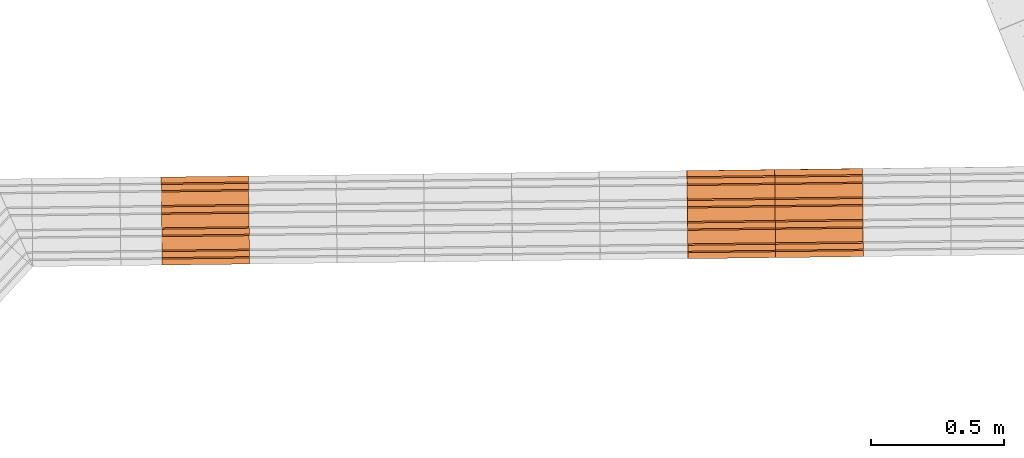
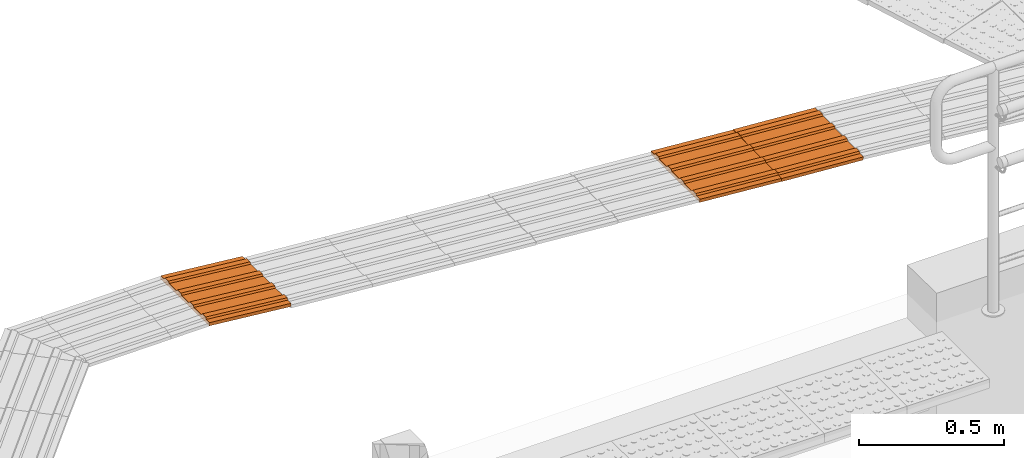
# One storey, part 224 of 237: 3 proxies.
"""IFC2X3 building model written with IfcOpenShell, lengths in millimetres."""

from ifc_helpers import new_model, entity, si_unit, converted_unit, derived_unit, money_unit, direction, frame, origin_with_axes, place, context, subcontext, project, spatial, open_shell, surface_model, type_object, element, save


model = new_model("IFC2X3")

# Units and contexts
model_context = context("Model", 3, precision=0.01, world=origin_with_axes(), true_north=direction((0.0, 1.0)))
body_context = subcontext(model_context, "Body", "Model", "MODEL_VIEW")
ifc_project = project(units=[si_unit("LENGTHUNIT", "METRE", prefix="MILLI"), si_unit("AREAUNIT", "SQUARE_METRE"), si_unit("VOLUMEUNIT", "CUBIC_METRE"), converted_unit("PLANEANGLEUNIT", "DEGREE", entity("IfcPlaneAngleMeasure", 0.0174532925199), si_unit("PLANEANGLEUNIT", "RADIAN"), dimensions=[0, 0, 0, 0, 0, 0, 0]), money_unit("USD"), converted_unit("TIMEUNIT", "Year", entity("IfcTimeMeasure", 31556926.0), si_unit("TIMEUNIT", "SECOND"), dimensions=[0, 0, 1, 0, 0, 0, 0]), si_unit("MASSUNIT", "GRAM", prefix="KILO"), si_unit("THERMODYNAMICTEMPERATUREUNIT", "DEGREE_CELSIUS"), si_unit("LUMINOUSINTENSITYUNIT", "LUMEN"), si_unit("ENERGYUNIT", "JOULE", prefix="MEGA"), derived_unit("THERMALCONDUCTANCEUNIT", [(si_unit("POWERUNIT", "WATT"), 1), (si_unit("LENGTHUNIT", "METRE"), -1), (si_unit("THERMODYNAMICTEMPERATUREUNIT", "KELVIN"), -1)]), derived_unit("SPECIFICHEATCAPACITYUNIT", [(si_unit("ENERGYUNIT", "JOULE"), 1), (si_unit("MASSUNIT", "GRAM", prefix="KILO"), -1), (si_unit("THERMODYNAMICTEMPERATUREUNIT", "KELVIN"), -1)]), derived_unit("MASSDENSITYUNIT", [(si_unit("MASSUNIT", "GRAM", prefix="KILO"), 1), (si_unit("VOLUMEUNIT", "CUBIC_METRE"), -1)])], contexts=[model_context])

# Site, building, storey
site_placement = place(None, origin_with_axes())
site = spatial("IfcSite", under=ifc_project, at=site_placement, Name="Local", CompositionType="ELEMENT")
building_placement = place(site_placement, origin_with_axes())
building = spatial("IfcBuilding", under=site, at=building_placement, Name="Construção", CompositionType="ELEMENT")
storey_placement = place(building_placement, origin_with_axes())
storey = spatial("IfcBuildingStorey", under=building, at=storey_placement, Name="Pavimento Térreo", CompositionType="ELEMENT", Elevation=0.0)

# Proxies
building_element_proxy_type = type_object("IfcBuildingElementProxyType", Name="Piso Direcional 27", PredefinedType="NOTDEFINED")
proxy_1_placement = place(storey_placement, frame((51185.2731253, 36669.5583104, -1571.58155223), z_axis=(0.0, 0.0, 1.0), x_axis=(-0.999926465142, -0.012127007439, 0.0)))
element("IfcBuildingElementProxy", 1, at=proxy_1_placement, inside=storey, type_object=building_element_proxy_type, Name="Objeto-0055", context=body_context, shape_type="SurfaceModel", body=[
    surface_model("IfcShellBasedSurfaceModel", [(-0.422938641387, -47.1807202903, 4.83421079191), (328.321311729, -47.1807202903, 33.5956058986), (327.74886966, -41.4720024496, 40.1386486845), (-0.995380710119, -41.4720024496, 11.3772535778)], [open_shell([[[0, 1, 2, 3]]])]),
    surface_model("IfcShellBasedSurfaceModel", [(329.321564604, -153.668419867, 22.1626632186), (329.823520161, 176.281319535, 16.4252849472), (328.661620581, 176.514018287, 29.705857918), (328.627589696, 154.144544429, 30.0948327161), (328.038132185, 148.668525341, 36.832362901), (328.004101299, 126.299051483, 37.2213376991), (328.576543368, 120.590333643, 30.6782949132), (328.499973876, 70.2590174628, 31.5534882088), (327.910516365, 64.7829983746, 38.2910183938), (327.87648548, 42.4135245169, 38.6799931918), (328.448927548, 36.7048066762, 32.1369504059), (328.372358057, -13.6265095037, 33.0121437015), (327.782900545, -19.1025285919, 39.7496738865), (327.74886966, -41.4720024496, 40.1386486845), (328.321311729, -47.1807202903, 33.5956058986), (328.244742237, -97.5120364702, 34.4707991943), (327.655284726, -102.988055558, 41.2083293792), (327.621253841, -125.357529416, 41.5973041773), (328.193695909, -131.066247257, 35.0542613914), (328.159665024, -153.435721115, 35.4432361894)], [open_shell([[[0, 1, 2, 3, 4, 5, 6, 7, 8, 9, 10, 11, 12, 13, 14, 15, 16, 17, 18, 19]]])]),
    surface_model("IfcShellBasedSurfaceModel", [(-0.961349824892, -19.1025285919, 10.9882787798), (327.782900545, -19.1025285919, 39.7496738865), (328.372358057, -13.6265095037, 33.0121437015), (-0.371892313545, -13.6265095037, 4.25074859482)], [open_shell([[[0, 1, 2, 3]]])]),
    surface_model("IfcShellBasedSurfaceModel", [(-1.08896564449, -102.988055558, 12.4469342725), (327.655284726, -102.988055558, 41.2083293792), (328.244742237, -97.5120364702, 34.4707991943), (-0.499508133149, -97.5120364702, 5.70940408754)], [open_shell([[[0, 1, 2, 3]]])]),
    surface_model("IfcShellBasedSurfaceModel", [(-0.833734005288, 64.7829983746, 9.52962328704), (327.910516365, 64.7829983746, 38.2910183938), (328.499973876, 70.2590174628, 31.5534882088), (-0.244276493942, 70.2590174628, 2.79209310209)], [open_shell([[[0, 1, 2, 3]]])]),
    surface_model("IfcShellBasedSurfaceModel", [(-0.295322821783, 36.7048066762, 3.37555529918), (328.448927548, 36.7048066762, 32.1369504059), (327.87648548, 42.4135245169, 38.6799931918), (-0.867764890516, 42.4135245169, 9.9185980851)], [open_shell([[[0, 1, 2, 3]]])]),
    surface_model("IfcShellBasedSurfaceModel", [(-0.55055446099, -131.066247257, 6.29286628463), (328.193695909, -131.066247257, 35.0542613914), (327.621253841, -125.357529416, 41.5973041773), (-1.12299652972, -125.357529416, 12.8359090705)], [open_shell([[[0, 1, 2, 3]]])]),
    surface_model("IfcShellBasedSurfaceModel", [(-0.0826297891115, 176.514018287, 0.94446281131), (-0.116660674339, 154.144544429, 1.33343760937), (328.627589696, 154.144544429, 30.0948327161), (328.661620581, 176.514018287, 29.705857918)], [open_shell([[[0, 1, 2, 3]]])]),
    surface_model("IfcShellBasedSurfaceModel", [(-0.16770700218, 120.590333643, 1.91689980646), (328.576543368, 120.590333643, 30.6782949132), (328.004101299, 126.299051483, 37.2213376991), (-0.740149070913, 126.299051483, 8.45994259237)], [open_shell([[[0, 1, 2, 3]]])]),
    surface_model("IfcShellBasedSurfaceModel", [(-0.706118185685, 148.668525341, 8.07096779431), (328.038132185, 148.668525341, 36.832362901), (328.627589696, 154.144544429, 30.0948327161), (-0.116660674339, 154.144544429, 1.33343760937)], [open_shell([[[0, 1, 2, 3]]])]),
    surface_model("IfcShellBasedSurfaceModel", [(-0.295322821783, 36.7048066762, 3.37555529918), (-0.371892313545, -13.6265095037, 4.25074859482), (328.372358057, -13.6265095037, 33.0121437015), (328.448927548, 36.7048066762, 32.1369504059)], [open_shell([[[0, 1, 2, 3]]])]),
    surface_model("IfcShellBasedSurfaceModel", [(-0.16770700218, 120.590333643, 1.91689980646), (-0.244276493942, 70.2590174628, 2.79209310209), (328.499973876, 70.2590174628, 31.5534882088), (328.576543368, 120.590333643, 30.6782949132)], [open_shell([[[0, 1, 2, 3]]])]),
    surface_model("IfcShellBasedSurfaceModel", [(-0.706118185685, 148.668525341, 8.07096779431), (-0.740149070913, 126.299051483, 8.45994259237), (328.004101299, 126.299051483, 37.2213376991), (328.038132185, 148.668525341, 36.832362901)], [open_shell([[[0, 1, 2, 3]]])]),
    surface_model("IfcShellBasedSurfaceModel", [(-0.16770700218, 120.590333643, 1.91689980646), (-0.740149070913, 126.299051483, 8.45994259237), (-0.706118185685, 148.668525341, 8.07096779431), (-0.116660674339, 154.144544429, 1.33343760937), (-0.0826297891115, 176.514018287, 0.94446281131), (1.07926979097, 176.281319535, -12.3361101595), (0.577314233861, -153.668419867, -6.59873188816), (-0.584585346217, -153.435721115, 6.68184108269), (-0.55055446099, -131.066247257, 6.29286628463), (-1.12299652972, -125.357529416, 12.8359090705), (-1.08896564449, -102.988055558, 12.4469342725), (-0.499508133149, -97.5120364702, 5.70940408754), (-0.422938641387, -47.1807202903, 4.83421079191), (-0.995380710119, -41.4720024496, 11.3772535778), (-0.961349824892, -19.1025285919, 10.9882787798), (-0.371892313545, -13.6265095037, 4.25074859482), (-0.295322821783, 36.7048066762, 3.37555529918), (-0.867764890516, 42.4135245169, 9.9185980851), (-0.833734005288, 64.7829983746, 9.52962328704), (-0.244276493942, 70.2590174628, 2.79209310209)], [open_shell([[[0, 1, 2, 3, 4, 5, 6, 7, 8, 9, 10, 11, 12, 13, 14, 15, 16, 17, 18, 19]]])]),
    surface_model("IfcShellBasedSurfaceModel", [(327.74886966, -41.4720024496, 40.1386486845), (327.782900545, -19.1025285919, 39.7496738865), (-0.961349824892, -19.1025285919, 10.9882787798), (-0.995380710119, -41.4720024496, 11.3772535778)], [open_shell([[[0, 1, 2, 3]]])]),
    surface_model("IfcShellBasedSurfaceModel", [(-0.422938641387, -47.1807202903, 4.83421079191), (-0.499508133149, -97.5120364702, 5.70940408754), (328.244742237, -97.5120364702, 34.4707991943), (328.321311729, -47.1807202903, 33.5956058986)], [open_shell([[[0, 1, 2, 3]]])]),
    surface_model("IfcShellBasedSurfaceModel", [(327.87648548, 42.4135245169, 38.6799931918), (327.910516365, 64.7829983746, 38.2910183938), (-0.833734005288, 64.7829983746, 9.52962328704), (-0.867764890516, 42.4135245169, 9.9185980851)], [open_shell([[[0, 1, 2, 3]]])]),
    surface_model("IfcShellBasedSurfaceModel", [(327.621253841, -125.357529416, 41.5973041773), (327.655284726, -102.988055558, 41.2083293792), (-1.08896564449, -102.988055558, 12.4469342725), (-1.12299652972, -125.357529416, 12.8359090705)], [open_shell([[[0, 1, 2, 3]]])]),
    surface_model("IfcShellBasedSurfaceModel", [(329.823520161, 176.281319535, 16.4252849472), (1.07926979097, 176.281319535, -12.3361101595), (-0.0826297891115, 176.514018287, 0.94446281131), (328.661620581, 176.514018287, 29.705857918)], [open_shell([[[0, 1, 2, 3]]])]),
    surface_model("IfcShellBasedSurfaceModel", [(329.321564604, -153.668419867, 22.1626632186), (0.577314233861, -153.668419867, -6.59873188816), (1.07926979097, 176.281319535, -12.3361101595), (329.823520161, 176.281319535, 16.4252849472)], [open_shell([[[0, 1, 2, 3]]])]),
    surface_model("IfcShellBasedSurfaceModel", [(328.159665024, -153.435721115, 35.4432361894), (328.193695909, -131.066247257, 35.0542613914), (-0.55055446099, -131.066247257, 6.29286628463), (-0.584585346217, -153.435721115, 6.68184108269)], [open_shell([[[0, 1, 2, 3]]])]),
    surface_model("IfcShellBasedSurfaceModel", [(0.577314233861, -153.668419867, -6.59873188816), (329.321564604, -153.668419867, 22.1626632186), (328.159665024, -153.435721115, 35.4432361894), (-0.584585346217, -153.435721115, 6.68184108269)], [open_shell([[[0, 1, 2, 3]]])]),
])
proxy_2_placement = place(storey_placement, frame((51514.2917401, 36673.5491512, -1597.16920049), z_axis=(0.0, 0.0, 1.0), x_axis=(-0.999926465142, -0.012127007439, 0.0)))
element("IfcBuildingElementProxy", 2, at=proxy_2_placement, inside=storey, type_object=building_element_proxy_type, Name="Objeto-0055", context=body_context, shape_type="SurfaceModel", body=[
    surface_model("IfcShellBasedSurfaceModel", [(-0.413025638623, -47.1365767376, 5.24798832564), (328.569694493, -47.1365767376, 31.1394899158), (328.058300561, -41.3707600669, 37.6373659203), (-0.924419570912, -41.3707600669, 11.7458643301)], [open_shell([[[0, 1, 2, 3]]])]),
    surface_model("IfcShellBasedSurfaceModel", [(329.397195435, -153.720372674, 20.6250935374), (330.074955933, 176.166544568, 12.0133298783), (329.029193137, 176.515570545, 25.3010060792), (328.983243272, 154.150355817, 25.8848544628), (328.448874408, 148.733565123, 32.6746546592), (328.402924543, 126.368350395, 33.2585030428), (328.914318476, 120.602533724, 26.7606270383), (328.810931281, 70.2808005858, 28.0742859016), (328.276562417, 64.8640098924, 34.8640860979), (328.230612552, 42.4987951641, 35.4479344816), (328.742006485, 36.7329784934, 28.9500584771), (328.63861929, -13.5887546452, 30.2637173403), (328.104250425, -19.0055453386, 37.0535175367), (328.058300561, -41.3707600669, 37.6373659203), (328.569694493, -47.1365767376, 31.1394899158), (328.466307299, -97.4583098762, 32.4531487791), (327.931938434, -102.87510057, 39.2429489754), (327.88598857, -125.240315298, 39.8267973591), (328.397382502, -131.006131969, 33.3289213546), (328.351432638, -153.371346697, 33.9127697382)], [open_shell([[[0, 1, 2, 3, 4, 5, 6, 7, 8, 9, 10, 11, 12, 13, 14, 15, 16, 17, 18, 19]]])]),
    surface_model("IfcShellBasedSurfaceModel", [(-0.87846970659, -19.0055453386, 11.1620159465), (328.104250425, -19.0055453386, 37.0535175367), (328.63861929, -13.5887546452, 30.2637173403), (-0.344100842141, -13.5887546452, 4.37221575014)], [open_shell([[[0, 1, 2, 3]]])]),
    surface_model("IfcShellBasedSurfaceModel", [(-1.0507816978, -102.87510057, 13.3514473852), (327.931938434, -102.87510057, 39.2429489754), (328.466307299, -97.4583098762, 32.4531487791), (-0.516412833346, -97.4583098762, 6.56164718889)], [open_shell([[[0, 1, 2, 3]]])]),
    surface_model("IfcShellBasedSurfaceModel", [(-0.706157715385, 64.8640098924, 8.97258450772), (328.276562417, 64.8640098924, 34.8640860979), (328.810931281, 70.2808005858, 28.0742859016), (-0.171788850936, 70.2808005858, 2.18278431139)], [open_shell([[[0, 1, 2, 3]]])]),
    surface_model("IfcShellBasedSurfaceModel", [(-0.240713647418, 36.7329784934, 3.05855688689), (328.742006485, 36.7329784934, 28.9500584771), (328.230612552, 42.4987951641, 35.4479344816), (-0.752107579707, 42.4987951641, 9.55643289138)], [open_shell([[[0, 1, 2, 3]]])]),
    surface_model("IfcShellBasedSurfaceModel", [(-0.585337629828, -131.006131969, 7.43741976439), (328.397382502, -131.006131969, 33.3289213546), (327.88598857, -125.240315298, 39.8267973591), (-1.09673156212, -125.240315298, 13.9352957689)], [open_shell([[[0, 1, 2, 3]]])]),
    surface_model("IfcShellBasedSurfaceModel", [(0.0464730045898, 176.515570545, -0.590495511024), (0.000523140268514, 154.150355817, -0.00664712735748), (328.983243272, 154.150355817, 25.8848544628), (329.029193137, 176.515570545, 25.3010060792)], [open_shell([[[0, 1, 2, 3]]])]),
    surface_model("IfcShellBasedSurfaceModel", [(-0.0684016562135, 120.602533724, 0.869125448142), (328.914318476, 120.602533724, 26.7606270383), (328.402924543, 126.368350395, 33.2585030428), (-0.579795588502, 126.368350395, 7.36700145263)], [open_shell([[[0, 1, 2, 3]]])]),
    surface_model("IfcShellBasedSurfaceModel", [(-0.53384572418, 148.733565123, 6.78315306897), (328.448874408, 148.733565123, 32.6746546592), (328.983243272, 154.150355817, 25.8848544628), (0.000523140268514, 154.150355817, -0.00664712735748)], [open_shell([[[0, 1, 2, 3]]])]),
    surface_model("IfcShellBasedSurfaceModel", [(-0.240713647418, 36.7329784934, 3.05855688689), (-0.344100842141, -13.5887546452, 4.37221575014), (328.63861929, -13.5887546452, 30.2637173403), (328.742006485, 36.7329784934, 28.9500584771)], [open_shell([[[0, 1, 2, 3]]])]),
    surface_model("IfcShellBasedSurfaceModel", [(-0.0684016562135, 120.602533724, 0.869125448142), (-0.171788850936, 70.2808005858, 2.18278431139), (328.810931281, 70.2808005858, 28.0742859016), (328.914318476, 120.602533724, 26.7606270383)], [open_shell([[[0, 1, 2, 3]]])]),
    surface_model("IfcShellBasedSurfaceModel", [(-0.53384572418, 148.733565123, 6.78315306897), (-0.579795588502, 126.368350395, 7.36700145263), (328.402924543, 126.368350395, 33.2585030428), (328.448874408, 148.733565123, 32.6746546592)], [open_shell([[[0, 1, 2, 3]]])]),
    surface_model("IfcShellBasedSurfaceModel", [(-0.0684016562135, 120.602533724, 0.869125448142), (-0.579795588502, 126.368350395, 7.36700145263), (-0.53384572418, 148.733565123, 6.78315306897), (0.000523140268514, 154.150355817, -0.00664712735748), (0.0464730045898, 176.515570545, -0.590495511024), (1.09223580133, 176.166544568, -13.8781717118), (0.414475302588, -153.720372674, -5.26640805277), (-0.63128749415, -153.371346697, 8.02126814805), (-0.585337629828, -131.006131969, 7.43741976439), (-1.09673156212, -125.240315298, 13.9352957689), (-1.0507816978, -102.87510057, 13.3514473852), (-0.516412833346, -97.4583098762, 6.56164718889), (-0.413025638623, -47.1365767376, 5.24798832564), (-0.924419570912, -41.3707600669, 11.7458643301), (-0.87846970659, -19.0055453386, 11.1620159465), (-0.344100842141, -13.5887546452, 4.37221575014), (-0.240713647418, 36.7329784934, 3.05855688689), (-0.752107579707, 42.4987951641, 9.55643289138), (-0.706157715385, 64.8640098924, 8.97258450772), (-0.171788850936, 70.2808005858, 2.18278431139)], [open_shell([[[0, 1, 2, 3, 4, 5, 6, 7, 8, 9, 10, 11, 12, 13, 14, 15, 16, 17, 18, 19]]])]),
    surface_model("IfcShellBasedSurfaceModel", [(328.058300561, -41.3707600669, 37.6373659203), (328.104250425, -19.0055453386, 37.0535175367), (-0.87846970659, -19.0055453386, 11.1620159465), (-0.924419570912, -41.3707600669, 11.7458643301)], [open_shell([[[0, 1, 2, 3]]])]),
    surface_model("IfcShellBasedSurfaceModel", [(-0.413025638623, -47.1365767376, 5.24798832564), (-0.516412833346, -97.4583098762, 6.56164718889), (328.466307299, -97.4583098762, 32.4531487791), (328.569694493, -47.1365767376, 31.1394899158)], [open_shell([[[0, 1, 2, 3]]])]),
    surface_model("IfcShellBasedSurfaceModel", [(328.230612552, 42.4987951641, 35.4479344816), (328.276562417, 64.8640098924, 34.8640860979), (-0.706157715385, 64.8640098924, 8.97258450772), (-0.752107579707, 42.4987951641, 9.55643289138)], [open_shell([[[0, 1, 2, 3]]])]),
    surface_model("IfcShellBasedSurfaceModel", [(327.88598857, -125.240315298, 39.8267973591), (327.931938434, -102.87510057, 39.2429489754), (-1.0507816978, -102.87510057, 13.3514473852), (-1.09673156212, -125.240315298, 13.9352957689)], [open_shell([[[0, 1, 2, 3]]])]),
    surface_model("IfcShellBasedSurfaceModel", [(330.074955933, 176.166544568, 12.0133298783), (1.09223580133, 176.166544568, -13.8781717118), (0.0464730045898, 176.515570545, -0.590495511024), (329.029193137, 176.515570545, 25.3010060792)], [open_shell([[[0, 1, 2, 3]]])]),
    surface_model("IfcShellBasedSurfaceModel", [(329.397195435, -153.720372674, 20.6250935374), (0.414475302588, -153.720372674, -5.26640805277), (1.09223580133, 176.166544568, -13.8781717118), (330.074955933, 176.166544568, 12.0133298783)], [open_shell([[[0, 1, 2, 3]]])]),
    surface_model("IfcShellBasedSurfaceModel", [(328.351432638, -153.371346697, 33.9127697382), (328.397382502, -131.006131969, 33.3289213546), (-0.585337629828, -131.006131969, 7.43741976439), (-0.63128749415, -153.371346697, 8.02126814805)], [open_shell([[[0, 1, 2, 3]]])]),
    surface_model("IfcShellBasedSurfaceModel", [(0.414475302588, -153.720372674, -5.26640805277), (329.397195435, -153.720372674, 20.6250935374), (328.351432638, -153.371346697, 33.9127697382), (-0.63128749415, -153.371346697, 8.02126814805)], [open_shell([[[0, 1, 2, 3]]])]),
])
proxy_3_placement = place(storey_placement, frame((49213.2428417, 36645.6477828, -1397.618154), z_axis=(0.0, 0.0, 1.0), x_axis=(-0.999926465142, -0.012127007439, 0.0)))
element("IfcBuildingElementProxy", 3, at=proxy_3_placement, inside=storey, type_object=building_element_proxy_type, Name="Objeto-0055", context=body_context, shape_type="SurfaceModel", body=[
    surface_model("IfcShellBasedSurfaceModel", [(-0.435077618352, -47.258225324, 4.00495753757), (327.634740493, -47.258225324, 39.6447449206), (326.914744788, -41.665004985, 46.2724180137), (-1.15507332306, -41.665004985, 10.6326306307)], [open_shell([[[0, 1, 2, 3]]])]),
    surface_model("IfcShellBasedSurfaceModel", [(329.074731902, -153.529411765, 26.3893987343), (329.074731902, 176.470588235, 26.3893987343), (327.634740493, 176.470588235, 39.6447449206), (327.634740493, 154.097706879, 39.6447449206), (326.914744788, 148.50448654, 46.2724180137), (326.914744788, 126.131605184, 46.2724180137), (327.634740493, 120.538384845, 39.6447449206), (327.634740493, 70.1994017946, 39.6447449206), (326.914744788, 64.6061814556, 46.2724180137), (326.914744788, 42.2333000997, 46.2724180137), (327.634740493, 36.6400797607, 39.6447449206), (327.634740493, -13.6989032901, 39.6447449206), (326.914744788, -19.2921236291, 46.2724180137), (326.914744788, -41.665004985, 46.2724180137), (327.634740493, -47.258225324, 39.6447449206), (327.634740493, -97.5972083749, 39.6447449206), (326.914744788, -103.190428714, 46.2724180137), (326.914744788, -125.56331007, 46.2724180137), (327.634740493, -131.156530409, 39.6447449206), (327.634740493, -153.529411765, 39.6447449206)], [open_shell([[[0, 1, 2, 3, 4, 5, 6, 7, 8, 9, 10, 11, 12, 13, 14, 15, 16, 17, 18, 19]]])]),
    surface_model("IfcShellBasedSurfaceModel", [(-1.15507332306, -19.2921236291, 10.6326306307), (326.914744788, -19.2921236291, 46.2724180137), (327.634740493, -13.6989032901, 39.6447449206), (-0.435077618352, -13.6989032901, 4.00495753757)], [open_shell([[[0, 1, 2, 3]]])]),
    surface_model("IfcShellBasedSurfaceModel", [(-1.15507332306, -103.190428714, 10.6326306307), (326.914744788, -103.190428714, 46.2724180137), (327.634740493, -97.5972083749, 39.6447449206), (-0.435077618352, -97.5972083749, 4.00495753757)], [open_shell([[[0, 1, 2, 3]]])]),
    surface_model("IfcShellBasedSurfaceModel", [(-1.15507332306, 64.6061814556, 10.6326306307), (326.914744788, 64.6061814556, 46.2724180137), (327.634740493, 70.1994017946, 39.6447449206), (-0.435077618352, 70.1994017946, 4.00495753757)], [open_shell([[[0, 1, 2, 3]]])]),
    surface_model("IfcShellBasedSurfaceModel", [(-0.435077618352, 36.6400797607, 4.00495753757), (327.634740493, 36.6400797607, 39.6447449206), (326.914744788, 42.2333000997, 46.2724180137), (-1.15507332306, 42.2333000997, 10.6326306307)], [open_shell([[[0, 1, 2, 3]]])]),
    surface_model("IfcShellBasedSurfaceModel", [(-0.435077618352, -131.156530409, 4.00495753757), (327.634740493, -131.156530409, 39.6447449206), (326.914744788, -125.56331007, 46.2724180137), (-1.15507332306, -125.56331007, 10.6326306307)], [open_shell([[[0, 1, 2, 3]]])]),
    surface_model("IfcShellBasedSurfaceModel", [(-0.435077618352, 176.470588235, 4.00495753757), (-0.435077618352, 154.097706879, 4.00495753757), (327.634740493, 154.097706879, 39.6447449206), (327.634740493, 176.470588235, 39.6447449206)], [open_shell([[[0, 1, 2, 3]]])]),
    surface_model("IfcShellBasedSurfaceModel", [(-0.435077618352, 120.538384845, 4.00495753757), (327.634740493, 120.538384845, 39.6447449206), (326.914744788, 126.131605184, 46.2724180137), (-1.15507332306, 126.131605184, 10.6326306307)], [open_shell([[[0, 1, 2, 3]]])]),
    surface_model("IfcShellBasedSurfaceModel", [(-1.15507332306, 148.50448654, 10.6326306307), (326.914744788, 148.50448654, 46.2724180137), (327.634740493, 154.097706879, 39.6447449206), (-0.435077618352, 154.097706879, 4.00495753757)], [open_shell([[[0, 1, 2, 3]]])]),
    surface_model("IfcShellBasedSurfaceModel", [(-0.435077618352, 36.6400797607, 4.00495753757), (-0.435077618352, -13.6989032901, 4.00495753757), (327.634740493, -13.6989032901, 39.6447449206), (327.634740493, 36.6400797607, 39.6447449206)], [open_shell([[[0, 1, 2, 3]]])]),
    surface_model("IfcShellBasedSurfaceModel", [(-0.435077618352, 120.538384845, 4.00495753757), (-0.435077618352, 70.1994017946, 4.00495753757), (327.634740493, 70.1994017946, 39.6447449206), (327.634740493, 120.538384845, 39.6447449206)], [open_shell([[[0, 1, 2, 3]]])]),
    surface_model("IfcShellBasedSurfaceModel", [(-1.15507332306, 148.50448654, 10.6326306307), (-1.15507332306, 126.131605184, 10.6326306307), (326.914744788, 126.131605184, 46.2724180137), (326.914744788, 148.50448654, 46.2724180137)], [open_shell([[[0, 1, 2, 3]]])]),
    surface_model("IfcShellBasedSurfaceModel", [(-0.435077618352, 120.538384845, 4.00495753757), (-1.15507332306, 126.131605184, 10.6326306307), (-1.15507332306, 148.50448654, 10.6326306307), (-0.435077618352, 154.097706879, 4.00495753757), (-0.435077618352, 176.470588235, 4.00495753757), (1.00491379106, 176.470588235, -9.25038864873), (1.00491379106, -153.529411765, -9.25038864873), (-0.435077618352, -153.529411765, 4.00495753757), (-0.435077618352, -131.156530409, 4.00495753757), (-1.15507332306, -125.56331007, 10.6326306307), (-1.15507332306, -103.190428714, 10.6326306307), (-0.435077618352, -97.5972083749, 4.00495753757), (-0.435077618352, -47.258225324, 4.00495753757), (-1.15507332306, -41.665004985, 10.6326306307), (-1.15507332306, -19.2921236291, 10.6326306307), (-0.435077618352, -13.6989032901, 4.00495753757), (-0.435077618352, 36.6400797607, 4.00495753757), (-1.15507332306, 42.2333000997, 10.6326306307), (-1.15507332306, 64.6061814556, 10.6326306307), (-0.435077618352, 70.1994017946, 4.00495753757)], [open_shell([[[0, 1, 2, 3, 4, 5, 6, 7, 8, 9, 10, 11, 12, 13, 14, 15, 16, 17, 18, 19]]])]),
    surface_model("IfcShellBasedSurfaceModel", [(326.914744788, -41.665004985, 46.2724180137), (326.914744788, -19.2921236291, 46.2724180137), (-1.15507332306, -19.2921236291, 10.6326306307), (-1.15507332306, -41.665004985, 10.6326306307)], [open_shell([[[0, 1, 2, 3]]])]),
    surface_model("IfcShellBasedSurfaceModel", [(-0.435077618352, -47.258225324, 4.00495753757), (-0.435077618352, -97.5972083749, 4.00495753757), (327.634740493, -97.5972083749, 39.6447449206), (327.634740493, -47.258225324, 39.6447449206)], [open_shell([[[0, 1, 2, 3]]])]),
    surface_model("IfcShellBasedSurfaceModel", [(326.914744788, 42.2333000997, 46.2724180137), (326.914744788, 64.6061814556, 46.2724180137), (-1.15507332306, 64.6061814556, 10.6326306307), (-1.15507332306, 42.2333000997, 10.6326306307)], [open_shell([[[0, 1, 2, 3]]])]),
    surface_model("IfcShellBasedSurfaceModel", [(326.914744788, -125.56331007, 46.2724180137), (326.914744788, -103.190428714, 46.2724180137), (-1.15507332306, -103.190428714, 10.6326306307), (-1.15507332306, -125.56331007, 10.6326306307)], [open_shell([[[0, 1, 2, 3]]])]),
    surface_model("IfcShellBasedSurfaceModel", [(329.074731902, 176.470588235, 26.3893987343), (1.00491379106, 176.470588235, -9.25038864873), (-0.435077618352, 176.470588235, 4.00495753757), (327.634740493, 176.470588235, 39.6447449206)], [open_shell([[[0, 1, 2, 3]]])]),
    surface_model("IfcShellBasedSurfaceModel", [(329.074731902, -153.529411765, 26.3893987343), (1.00491379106, -153.529411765, -9.25038864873), (1.00491379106, 176.470588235, -9.25038864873), (329.074731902, 176.470588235, 26.3893987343)], [open_shell([[[0, 1, 2, 3]]])]),
    surface_model("IfcShellBasedSurfaceModel", [(327.634740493, -153.529411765, 39.6447449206), (327.634740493, -131.156530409, 39.6447449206), (-0.435077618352, -131.156530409, 4.00495753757), (-0.435077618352, -153.529411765, 4.00495753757)], [open_shell([[[0, 1, 2, 3]]])]),
    surface_model("IfcShellBasedSurfaceModel", [(1.00491379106, -153.529411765, -9.25038864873), (329.074731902, -153.529411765, 26.3893987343), (327.634740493, -153.529411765, 39.6447449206), (-0.435077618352, -153.529411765, 4.00495753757)], [open_shell([[[0, 1, 2, 3]]])]),
])

save(model, "model.ifc")
